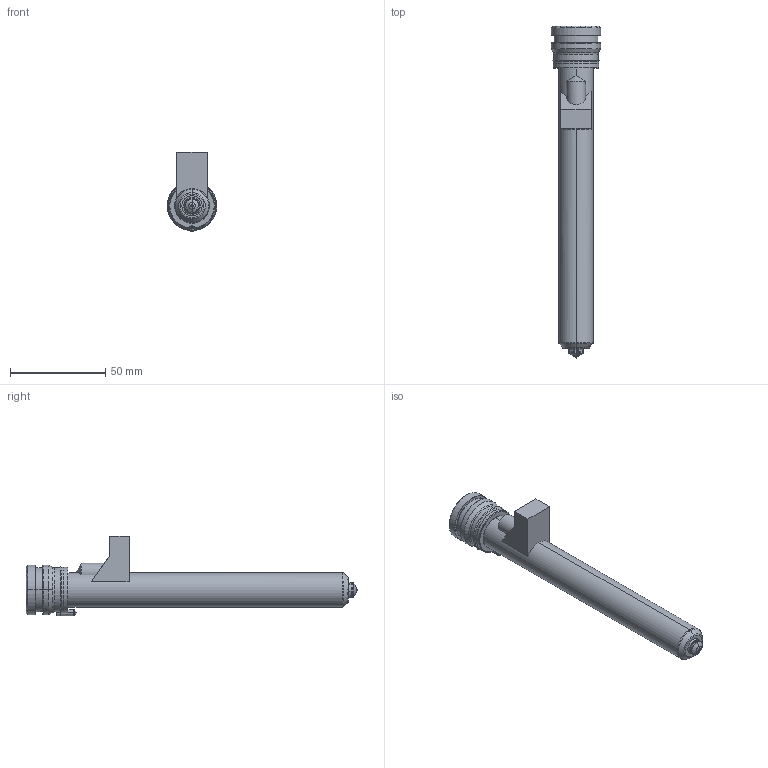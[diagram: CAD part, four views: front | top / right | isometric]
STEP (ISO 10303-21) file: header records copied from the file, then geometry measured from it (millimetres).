
FILE_DESCRIPTION((''),'2;1');
FILE_NAME('MPN-08-24-VSA8-156-M','2026-02-05T13:34:52',('UPTIO'),('Thermoplay S.p.A.'),'CREO PARAMETRIC BY PTC INC, 2023494','CREO PARAMETRIC BY PTC INC, 2023494','');
FILE_SCHEMA(('CONFIG_CONTROL_DESIGN','SHAPE_APPEARANCE_LAYERS_GROUPS'));
Length unit declared in the file: millimetre
Products named in the file (1): MPN-08-24-VSA8-156-M
Bounding box: 26 x 174 x 41.5 mm (x, y, z)
Volume: 33019.4 mm3; surface area: 44065.9 mm2
Topology: 2 solids, 3 shells, 527 faces, 1374 edges, 846 vertices
Faces by surface type: cylinder 176, plane 143, bspline 75, torus 60, cone 58, sphere 9, extrusion 6
Entity records: 27275 total; most frequent: CARTESIAN_POINT 11796, ORIENTED_EDGE 2730, DIRECTION 2497, EDGE_CURVE 1365, AXIS2_PLACEMENT_3D 975, VERTEX_POINT 846, EDGE_LOOP 557, VECTOR 547
